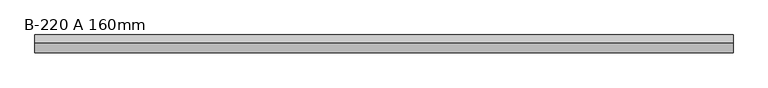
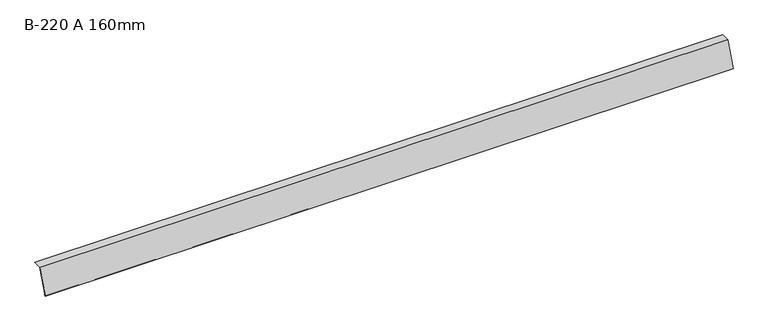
"""IFC4 building model written with IfcOpenShell, lengths in millimetres: proxy geometry, GROVIK_Flashing_Eaves : B-220 A 160mm."""

import ifcopenshell
import ifcopenshell.guid

model = None  # the IFC model being written
_history = None  # IfcOwnerHistory: only IFC2X3 demands one
_inside = {}  # id of a spatial element -> (the spatial element, [elements in it])
_under = {}  # id of a project, library or spatial element -> (it, [spatial elements below it])
_declared = {}  # id of a project -> (the project, [libraries it declares])
_typed = {}  # id of a type object -> (the type object, [elements of that type])
_made_of = {}  # id of a material, layer set ... -> (it, [elements and type objects made of it])


def new_model(schema):
    """Start an empty IFC model of exactly this schema.

    Asked for "IFC4X3", IfcOpenShell would pick the latest addendum, in which some entities
    have other attributes; the version numbers below select the first issue.
    IFC2X3 requires an IfcOwnerHistory on every rooted entity: one is made here for all.
    """
    global model, _history
    if schema == "IFC4X3":
        model = ifcopenshell.file(schema_version=(4, 3, 0, 0))
    else:
        model = ifcopenshell.file(schema=schema)
    _inside.clear()
    _under.clear()
    _declared.clear()
    _typed.clear()
    _made_of.clear()
    _history = None
    if model.schema == "IFC2X3":
        org = make("IfcOrganization", Name="unknown")
        user = make(
            "IfcPersonAndOrganization",
            ThePerson=make("IfcPerson", FamilyName="unknown"),
            TheOrganization=org,
        )
        app = make(
            "IfcApplication",
            ApplicationDeveloper=org,
            Version="unknown",
            ApplicationFullName="unknown",
            ApplicationIdentifier="unknown",
        )
        _history = make(
            "IfcOwnerHistory",
            OwningUser=user,
            OwningApplication=app,
            ChangeAction="ADDED",
            CreationDate=0,
        )
    return model


def make(cls, **values):
    """One entity of the class cls with the attributes given. An attribute that is None is left unset."""
    return model.create_entity(
        cls, **{name: value for name, value in values.items() if value is not None}
    )


def rooted(cls, **values):
    """An entity with a GlobalId (a new one), such as an element, a storey or a relation."""
    return make(cls, GlobalId=ifcopenshell.guid.new(), OwnerHistory=_history, **values)


def si_unit(unit_type, name, prefix=None):
    """IfcSIUnit, for example si_unit("LENGTHUNIT", "METRE", prefix="MILLI")."""
    return make("IfcSIUnit", UnitType=unit_type, Prefix=prefix, Name=name)


def assignment(units):
    """IfcUnitAssignment: the units of a project."""
    return None if units is None else make("IfcUnitAssignment", Units=units)


def point(xyz):
    """IfcCartesianPoint."""
    return None if xyz is None else make("IfcCartesianPoint", Coordinates=xyz)


def direction(xyz):
    """IfcDirection."""
    return None if xyz is None else make("IfcDirection", DirectionRatios=xyz)


def frame(location, z_axis=None, x_axis=None):
    """IfcAxis2Placement3D, a coordinate frame: its origin and axes. An axis left out is left unset."""
    return make(
        "IfcAxis2Placement3D",
        Location=point(location),
        Axis=direction(z_axis),
        RefDirection=direction(x_axis),
    )


def origin():
    """The frame at (0, 0, 0) with its axes left unset."""
    return frame((0.0, 0.0, 0.0))


def place(relative_to, where):
    """IfcLocalPlacement: puts the frame where relative to a parent placement (None: the world)."""
    return make(
        "IfcLocalPlacement", PlacementRelTo=relative_to, RelativePlacement=where
    )


def context(
    kind, dimensions, precision=None, world=None, true_north=None, identifier=None
):
    """IfcGeometricRepresentationContext, for example the 3D "Model" context."""
    return make(
        "IfcGeometricRepresentationContext",
        ContextIdentifier=identifier,
        ContextType=kind,
        CoordinateSpaceDimension=dimensions,
        Precision=precision,
        WorldCoordinateSystem=world,
        TrueNorth=true_north,
    )


def project(units=None, contexts=None):
    """IfcProject with its units and contexts."""
    return rooted(
        "IfcProject",
        Name="project",
        RepresentationContexts=contexts,
        UnitsInContext=assignment(units),
    )


def spatial(cls, under=None, at=None, **own):
    """A site, building, storey or space (cls), placed at a placement, below another one or the project."""
    s = rooted(cls, ObjectPlacement=at, **own)
    if under is not None:
        _under.setdefault(under.id(), (under, []))[1].append(s)
    return s


def polyline(points):
    """IfcPolyline through the points."""
    return make("IfcPolyline", Points=[point(p) for p in points])


def outline(outer, holes=None, kind="AREA"):
    """IfcArbitraryClosedProfileDef: a profile drawn as a closed curve; with holes, ...WithVoids."""
    if holes is None:
        return make("IfcArbitraryClosedProfileDef", ProfileType=kind, OuterCurve=outer)
    return make(
        "IfcArbitraryProfileDefWithVoids",
        ProfileType=kind,
        OuterCurve=outer,
        InnerCurves=holes,
    )


def extrude(swept, where, along, depth):
    """IfcExtrudedAreaSolid: the profile swept, set in the frame where, extruded along a direction by depth."""
    return make(
        "IfcExtrudedAreaSolid",
        SweptArea=swept,
        Position=where,
        ExtrudedDirection=direction(along),
        Depth=depth,
    )


def shape(context_of_items, identifier, shape_type, items):
    """IfcShapeRepresentation: the items that make up one representation, for example the "Body"."""
    return make(
        "IfcShapeRepresentation",
        ContextOfItems=context_of_items,
        RepresentationIdentifier=identifier,
        RepresentationType=shape_type,
        Items=items,
    )


def source(mapping_origin, context_of_items, identifier, shape_type, items):
    """IfcRepresentationMap: a shape defined once, which mapped items show again and again."""
    return make(
        "IfcRepresentationMap",
        MappingOrigin=mapping_origin,
        MappedRepresentation=shape(context_of_items, identifier, shape_type, items),
    )


def transform(
    local_origin,
    x_axis=None,
    y_axis=None,
    z_axis=None,
    scale=None,
    scale2=None,
    scale3=None,
    uniform=True,
):
    """IfcCartesianTransformationOperator3D, or its non-uniform kind. x_axis, y_axis, z_axis: its Axis1, 2, 3."""
    if uniform:
        return make(
            "IfcCartesianTransformationOperator3D",
            Axis1=direction(x_axis),
            Axis2=direction(y_axis),
            LocalOrigin=point(local_origin),
            Scale=scale,
            Axis3=direction(z_axis),
        )
    return make(
        "IfcCartesianTransformationOperator3DnonUniform",
        Axis1=direction(x_axis),
        Axis2=direction(y_axis),
        LocalOrigin=point(local_origin),
        Scale=scale,
        Axis3=direction(z_axis),
        Scale2=scale2,
        Scale3=scale3,
    )


def mapped(mapping_source, mapping_target):
    """IfcMappedItem: shows the shape of a source again, moved by a transform."""
    return make(
        "IfcMappedItem", MappingSource=mapping_source, MappingTarget=mapping_target
    )


def made_of(thing, what):
    """Note that an element or type object is made of a material, layer set ...; save() writes the relation."""
    if what is not None:
        _made_of.setdefault(what.id(), (what, []))[1].append(thing)
    return thing


def element(
    cls,
    number,
    at=None,
    inside=None,
    cuts=None,
    type_object=None,
    material=None,
    context=None,
    identifier="Body",
    shape_type=None,
    held_by="IfcProductDefinitionShape",
    body=None,
    shapes=None,
    **own,
):
    """One element of the class cls, such as IfcWall. Its Tag is "e" and its number.

    at: its placement. inside: the storey or other place that contains it. cuts: it is an
    opening in that element (IfcRelVoidsElement). A single representation is given by context,
    identifier, shape_type and body (its items); several are given by shapes. held_by: the class
    of the entity that holds the representations. save() writes the other relations.
    """
    e = rooted(cls, Tag="e%d" % number, ObjectPlacement=at, **own)
    if body is not None:
        shapes = [shape(context, identifier, shape_type, body)]
    if shapes is not None:
        e.Representation = make(held_by, Representations=shapes)
    if inside is not None:
        _inside.setdefault(inside.id(), (inside, []))[1].append(e)
    if cuts is not None:
        rooted(
            "IfcRelVoidsElement", RelatingBuildingElement=cuts, RelatedOpeningElement=e
        )
    if type_object is not None:
        _typed.setdefault(type_object.id(), (type_object, []))[1].append(e)
    return made_of(e, material)


def aggregate(whole, parts):
    """IfcRelAggregates: a whole, such as a stair, and the parts it consists of."""
    return rooted("IfcRelAggregates", RelatingObject=whole, RelatedObjects=parts)


def save(model, path):
    """Write the relations noted so far, then the file.

    IfcRelAggregates (storeys below a building ...), IfcRelContainedInSpatialStructure (elements
    in a storey), IfcRelDefinesByType, IfcRelAssociatesMaterial and IfcRelDeclares: one each for
    every whole, place, type object, material and project.
    """
    for whole, parts in _under.values():
        aggregate(whole, parts)
    for where, things in _inside.values():
        rooted(
            "IfcRelContainedInSpatialStructure",
            RelatedElements=things,
            RelatingStructure=where,
        )
    for kind, things in _typed.values():
        rooted("IfcRelDefinesByType", RelatedObjects=things, RelatingType=kind)
    for what, things in _made_of.values():
        rooted("IfcRelAssociatesMaterial", RelatedObjects=things, RelatingMaterial=what)
    for by, libraries in _declared.values():
        rooted("IfcRelDeclares", RelatingContext=by, RelatedDefinitions=libraries)
    model.write(path)


def b_220_a_160mm_a982867b(model_context):
    return source(origin(), model_context, "Body", "SweptSolid", [
        extrude(outline(polyline([(-0.6918582, 0.9880759), (-57.9129574, -148.077984), (-48.2100002, -145.6587651), (-47.9680783, -146.6290608), (-59.5349563, -149.5130074), (-1.3837164, 1.9761518), (48.9576322, 2.8548633), (48.9750847, 1.8550156), (-0.6918582, 0.9880759)])), frame((0.0, 0.0, 0.0), z_axis=(1.0, 0.0, 0.0), x_axis=(0.0, 1.0, 0.0)), (0.0, 0.0, 1.0), 4200.0),
    ])


if __name__ == "__main__":
    model = new_model("IFC4")
    model_context = context("Model", 3, world=origin())
    ifc_project = project(units=[si_unit("LENGTHUNIT", "METRE", prefix="MILLI")], contexts=[model_context])
    site = spatial("IfcSite", under=ifc_project)
    building = spatial("IfcBuilding", under=site)
    placement = place(None, origin())
    b_220_a_160mm_shape = b_220_a_160mm_a982867b(model_context)
    element("IfcBuildingElementProxy", 1, Name="GROVIK_Flashing_Eaves : B-220 A 160mm", ObjectType="GROVIK_Flashing_Eaves : B-220 A 160mm", at=placement, inside=building, context=model_context, shape_type="MappedRepresentation", body=[
        mapped(b_220_a_160mm_shape, transform((0.0, 0.0, 0.0), x_axis=(1.0, 0.0, 0.0), y_axis=(0.0, 1.0, 0.0), z_axis=(0.0, 0.0, 1.0))),
    ])
    save(model, "model.ifc")
